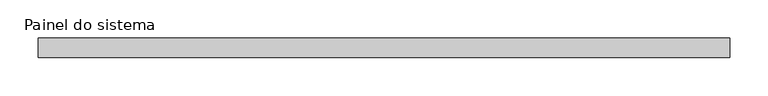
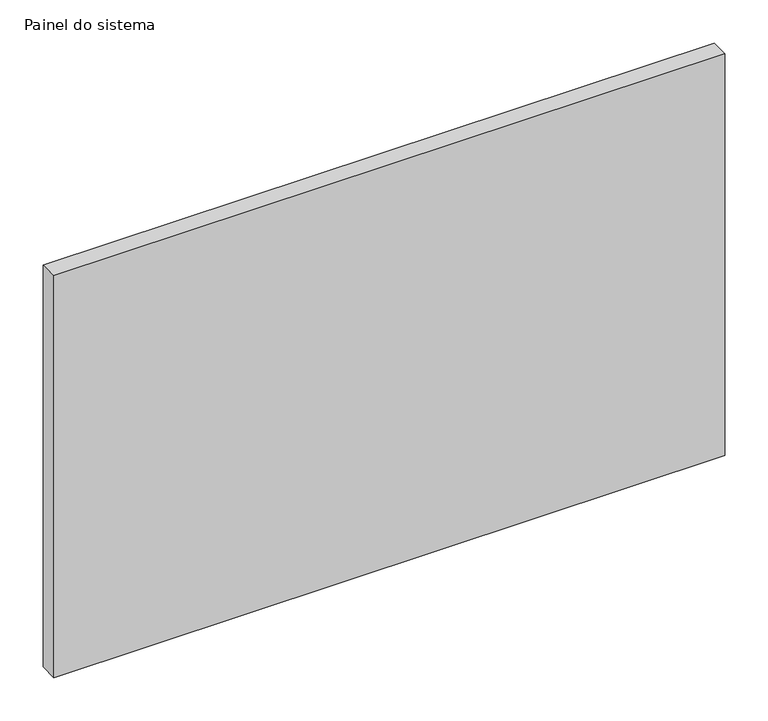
"""IFC4 building model written with IfcOpenShell, lengths in millimetres: plate geometry, Painel do sistema : Envidraçado."""

from ifc_helpers import new_model, si_unit, origin, origin_with_axes, place, context, project, spatial, polyline, outline, extrude, source, transform, mapped, element, save


def painel_do_sistema_c8643082(model_context):
    return source(origin(), model_context, "Body", "SweptSolid", [
        extrude(outline(polyline([(450.0, 24.5), (-450.0, 24.5), (-450.0, 49.5), (450.0, 49.5), (450.0, 24.5)])), origin_with_axes(), (0.0, 0.0, 1.0), 570.0),
    ])


if __name__ == "__main__":
    model = new_model("IFC4")
    model_context = context("Model", 3, world=origin())
    ifc_project = project(units=[si_unit("LENGTHUNIT", "METRE", prefix="MILLI")], contexts=[model_context])
    site = spatial("IfcSite", under=ifc_project)
    building = spatial("IfcBuilding", under=site)
    placement = place(None, origin())
    painel_do_sistema_shape = painel_do_sistema_c8643082(model_context)
    element("IfcPlate", 1, ObjectType="Painel do sistema : Envidraçado", at=placement, inside=building, context=model_context, shape_type="MappedRepresentation", body=[
        mapped(painel_do_sistema_shape, transform((0.0, 0.0, 0.0), x_axis=(1.0, 0.0, 0.0), y_axis=(0.0, 1.0, 0.0), z_axis=(0.0, 0.0, 1.0))),
    ])
    save(model, "model.ifc")
